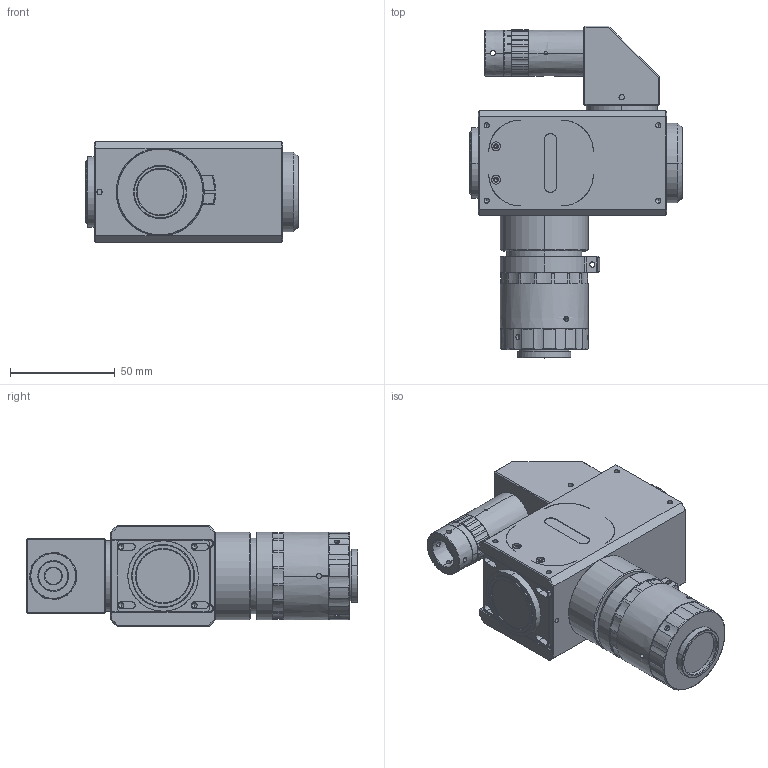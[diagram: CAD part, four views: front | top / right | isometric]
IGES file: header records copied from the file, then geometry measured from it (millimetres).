
Start section: SolidWorks IGES file using analytic representation for surfaces
Global section: file name: C:\Users\gc\Desktop\未完成工作堆放区\TUL05-JG\发客户3D\TUL05-JG.IGS; native system: SolidWorks 2017; preprocessor: SolidWorks 2017; author: gc; date: 231103.152446; units: millimetre
Bounding box: 101.4 x 158.63 x 48 mm (x, y, z)
Surface area: 60872.9 mm2 (no closed solid volume)
Topology: 0 solids, 0 shells, 980 faces, 13286 edges, 13246 vertices
Faces by surface type: revolution 624, bspline 356
